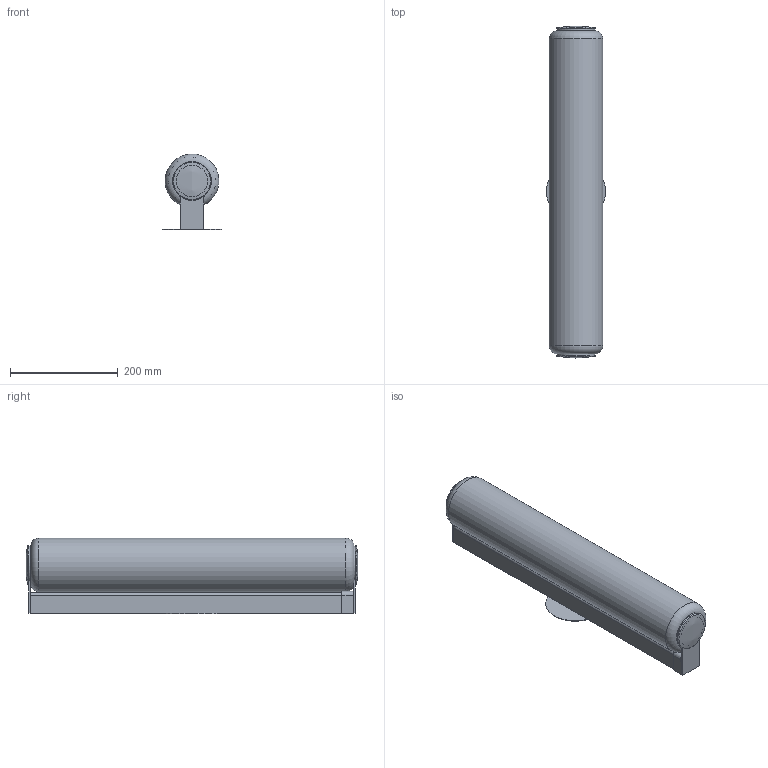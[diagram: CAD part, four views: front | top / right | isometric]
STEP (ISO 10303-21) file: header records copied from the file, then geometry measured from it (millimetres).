
FILE_DESCRIPTION(/* description */ ('STACKING P/PL 60 US'),/* implementation_level */ '2;1');
FILE_NAME(/* name */ '343Z1LD0-0USCA - STACKING P-PL 60 USA - VU RIG.stp',/* time_stamp */ '2026-01-29T11:30:56+01:00',/* author */ ('marco.prandina'),/* organization */ (''),/* preprocessor_version */ 'ST-DEVELOPER v20.1',/* originating_system */ 'Autodesk Inventor 2026',/* authorisation */ '');
FILE_SCHEMA (('AUTOMOTIVE_DESIGN { 1 0 10303 214 3 1 1 }'));
Length unit declared in the file: millimetre
Products named in the file (38): 343Z1LD0-0USCA; 343C667; 343C439; 343C638; GRANO M6X10 ISO 4026; 343C668; 343C635-B; 343C671; 343C665; 343C672; RONDELLA DENTELLATA ESTERNA M4; 343C657; 343C659-A; W027-BIA; X0023-020; 343C670; B006; 00343C397; 00343C404; 00343C398; 00343C407-B; VITE TCB M4X8 UNI7687 ZB; VITE TCB M3X8 UNI7687 ZB; VITE TSP M4X6 ZN; 00343C410; DADO M4 A3 - DIN 934; DADO M3 S2 M.00.06.19 UNI5588 DIN934; RONDELLA DENTELLATA ESTERNA M3 UNI8842A; K002; A031; W042-TRS; Z016-A; Z016-B; Z017-Q; Z016-D; W030-NRO; W030-BIA; 00343V005-B-600
Assembly tree (47 placements, depth 2):
  343Z1LD0-0USCA
    343C667
    343C439
    343C638
    GRANO M6X10 ISO 4026
    343C668
    343C635-B
    343C671
    343C665
    DADO M4 A3 - DIN 934  x4
    RONDELLA DENTELLATA ESTERNA M4  x4
    343C672
    343C657
    343C659-A
    X0023-020  x2
    W027-BIA  x2
    343C670
    B006
    00343C397
    00343C404
    00343C398
    00343C407-B
    VITE TCB M4X8 UNI7687 ZB
    VITE TCB M3X8 UNI7687 ZB  x3
    VITE TSP M4X6 ZN
    00343C410
    DADO M3 S2 M.00.06.19 UNI5588 DIN934
    RONDELLA DENTELLATA ESTERNA M3 UNI8842A
    K002
    A031
    W042-TRS
    Z016-A
    Z016-B
    Z017-Q
    Z016-D
    W030-NRO
    W030-BIA
    00343V005-B-600
Bounding box: 110 x 616.42 x 140.88 mm (x, y, z)
Volume: 1524692.1 mm3; surface area: 1035492.9 mm2
Topology: 50 solids, 90 shells, 4353 faces, 11859 edges, 7807 vertices
Faces by surface type: plane 2588, cylinder 839, bspline 565, cone 318, torus 32, sphere 11
Full cylindrical faces by diameter (mm): 0.88 x2, 1.02 x2, 1.9 x2, 2.459 x8, 2.5 x36, 2.75 x3, 2.9 x2, 3 x10, 3.2 x4, 3.242 x2, 3.4 x3, 3.459 x4, 3.5 x4, 3.571 x1, 3.65 x1, 4 x6, 4.2 x1, 4.3 x4, 4.5 x10, 4.917 x1, 5 x7, 5.2 x1, 5.6 x4, 6 x1, 6.5 x2, 8.4 x1, 9 x2, 10.5 x1, 12 x1, 12.5 x2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
Entity records: 138946 total; most frequent: CARTESIAN_POINT 35694, ORIENTED_EDGE 21786, DIRECTION 18188, EDGE_CURVE 10893, LINE 7470, VECTOR 7470, VERTEX_POINT 7178, AXIS2_PLACEMENT_3D 5359
